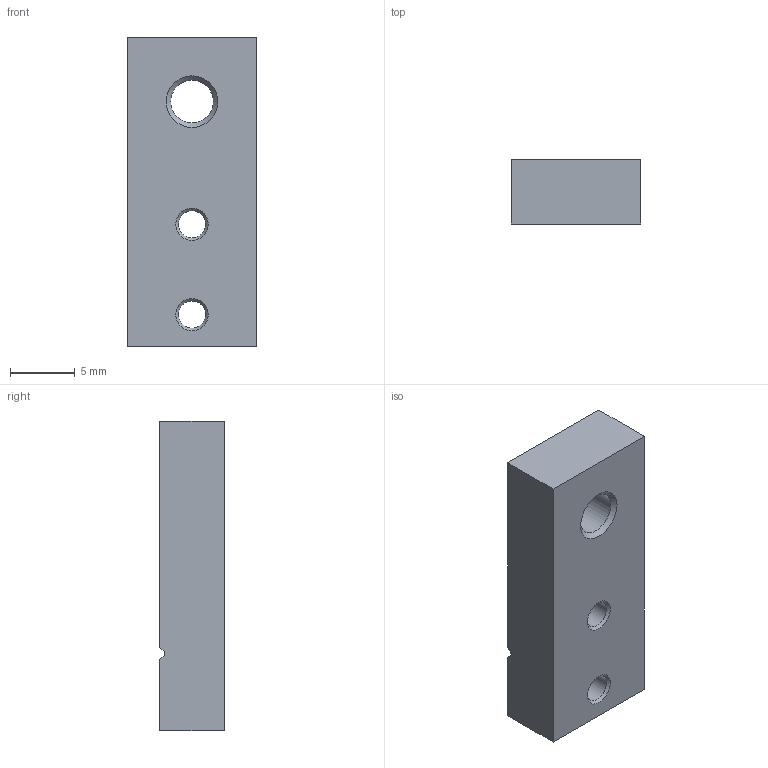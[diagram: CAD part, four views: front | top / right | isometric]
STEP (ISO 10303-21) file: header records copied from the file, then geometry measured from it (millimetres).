
FILE_DESCRIPTION(/* description */ (''),/* implementation_level */ '2;1');
FILE_NAME(/* name */ '2020TOMO-CRIMP.09.stp',/* time_stamp */ '2021-01-20T14:51:21+01:00',/* author */ (''),/* organization */ (''),/* preprocessor_version */ 'ST-DEVELOPER v16.7',/* originating_system */ 'SIEMENS PLM Software NX 1892',/* authorisation */ '');
FILE_SCHEMA (('AUTOMOTIVE_DESIGN { 1 0 10303 214 3 1 1 1 }'));
Length unit declared in the file: millimetre
Products named in the file (1): turc131041948it4
Bounding box: 10 x 5 x 24 mm (x, y, z)
Volume: 1109.9 mm3; surface area: 899.1 mm2
Topology: 1 solids, 1 shells, 19 faces, 48 edges, 31 vertices
Faces by surface type: plane 9, cone 6, cylinder 4
Full cylindrical faces by diameter (mm): 2.1 x2, 3.3 x1
Entity records: 544 total; most frequent: DIRECTION 90, CARTESIAN_POINT 84, ORIENTED_EDGE 72, EDGE_CURVE 36, EDGE_LOOP 34, AXIS2_PLACEMENT_3D 34, VERTEX_POINT 28, FACE_BOUND 27
